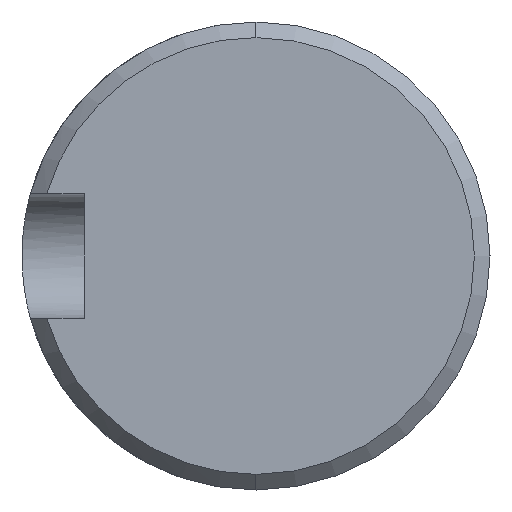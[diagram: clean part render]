
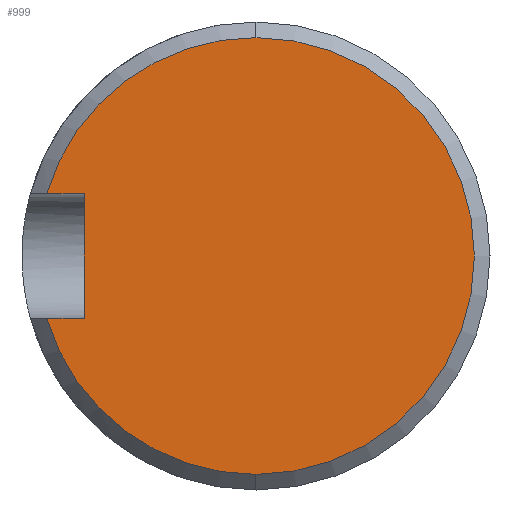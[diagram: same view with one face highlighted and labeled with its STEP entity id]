
A CAD part, left-side view. The second image highlights one B-rep face of the part: STEP entity #999.
In plain terms, the highlighted planar face has unit normal (-1, 0, 0).
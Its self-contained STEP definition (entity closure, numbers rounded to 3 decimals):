
#16 = VERTEX_POINT ( 'NONE', #125 ) ;
#27 = EDGE_CURVE ( 'NONE', #16, #31, #171, .T. ) ;
#31 = VERTEX_POINT ( 'NONE', #166 ) ;
#125 = CARTESIAN_POINT ( 'NONE',  ( 0., 0., 14. ) ) ;
#148 = DIRECTION ( 'NONE',  ( 0., 0., 1. ) ) ;
#149 = DIRECTION ( 'NONE',  ( -1., 0., 0. ) ) ;
#150 = CARTESIAN_POINT ( 'NONE',  ( 0., 0., 0. ) ) ;
#151 = AXIS2_PLACEMENT_3D ( 'NONE', #150, #149, #148 ) ;
#166 = CARTESIAN_POINT ( 'NONE',  ( 0., 13.416, 4. ) ) ;
#171 = CIRCLE ( 'NONE', #151, 14. ) ;
#241 = AXIS2_PLACEMENT_3D ( 'NONE', #291, #290, #289 ) ;
#243 = CARTESIAN_POINT ( 'NONE',  ( 0., 13.416, -4. ) ) ;
#270 = DIRECTION ( 'NONE',  ( 0., 0., 1. ) ) ;
#271 = VECTOR ( 'NONE', #270, 1000. ) ;
#272 = CARTESIAN_POINT ( 'NONE',  ( 0., 11., -4. ) ) ;
#277 = DIRECTION ( 'NONE',  ( 0., 1., 0. ) ) ;
#278 = VECTOR ( 'NONE', #277, 1000. ) ;
#279 = CARTESIAN_POINT ( 'NONE',  ( 0., 11., 4. ) ) ;
#282 = LINE ( 'NONE', #272, #271 ) ;
#283 = LINE ( 'NONE', #279, #278 ) ;
#284 = DIRECTION ( 'NONE',  ( 0., 1., 0. ) ) ;
#285 = VECTOR ( 'NONE', #284, 1000. ) ;
#286 = CARTESIAN_POINT ( 'NONE',  ( 0., 11., -4. ) ) ;
#289 = DIRECTION ( 'NONE',  ( 0., 0., 1. ) ) ;
#290 = DIRECTION ( 'NONE',  ( -1., 0., 0. ) ) ;
#291 = CARTESIAN_POINT ( 'NONE',  ( 0., 0., 0. ) ) ;
#292 = CARTESIAN_POINT ( 'NONE',  ( 0., 11., -4. ) ) ;
#293 = LINE ( 'NONE', #286, #285 ) ;
#299 = CIRCLE ( 'NONE', #241, 14. ) ;
#301 = CARTESIAN_POINT ( 'NONE',  ( 0., 11., 4. ) ) ;
#360 = CIRCLE ( 'NONE', #414, 14. ) ;
#386 = CARTESIAN_POINT ( 'NONE',  ( 0., 0., -14. ) ) ;
#387 = PLANE ( 'NONE',  #446 ) ;
#388 = FACE_OUTER_BOUND ( 'NONE', #1011, .T. ) ;
#396 = DIRECTION ( 'NONE',  ( -1., 0., 0. ) ) ;
#397 = CARTESIAN_POINT ( 'NONE',  ( 0., 15., 0. ) ) ;
#411 = DIRECTION ( 'NONE',  ( 0., 0., 1. ) ) ;
#412 = DIRECTION ( 'NONE',  ( -1., 0., 0. ) ) ;
#413 = CARTESIAN_POINT ( 'NONE',  ( 0., 0., 0. ) ) ;
#414 = AXIS2_PLACEMENT_3D ( 'NONE', #413, #412, #411 ) ;
#445 = DIRECTION ( 'NONE',  ( 0., 0., 1. ) ) ;
#446 = AXIS2_PLACEMENT_3D ( 'NONE', #397, #396, #445 ) ;
#907 = VERTEX_POINT ( 'NONE', #301 ) ;
#908 = ORIENTED_EDGE ( 'NONE', *, *, #911, .T. ) ;
#909 = ORIENTED_EDGE ( 'NONE', *, *, #919, .F. ) ;
#910 = VERTEX_POINT ( 'NONE', #243 ) ;
#911 = EDGE_CURVE ( 'NONE', #910, #998, #299, .T. ) ;
#913 = ORIENTED_EDGE ( 'NONE', *, *, #914, .T. ) ;
#914 = EDGE_CURVE ( 'NONE', #915, #910, #293, .T. ) ;
#915 = VERTEX_POINT ( 'NONE', #292 ) ;
#916 = EDGE_CURVE ( 'NONE', #907, #31, #283, .T. ) ;
#917 = ORIENTED_EDGE ( 'NONE', *, *, #980, .T. ) ;
#919 = EDGE_CURVE ( 'NONE', #915, #907, #282, .T. ) ;
#980 = EDGE_CURVE ( 'NONE', #998, #16, #360, .T. ) ;
#998 = VERTEX_POINT ( 'NONE', #386 ) ;
#999 = ADVANCED_FACE ( 'NONE', ( #388 ), #387, .T. ) ;
#1000 = ORIENTED_EDGE ( 'NONE', *, *, #916, .F. ) ;
#1011 = EDGE_LOOP ( 'NONE', ( #1000, #909, #913, #908, #917, #1132 ) ) ;
#1132 = ORIENTED_EDGE ( 'NONE', *, *, #27, .T. ) ;
